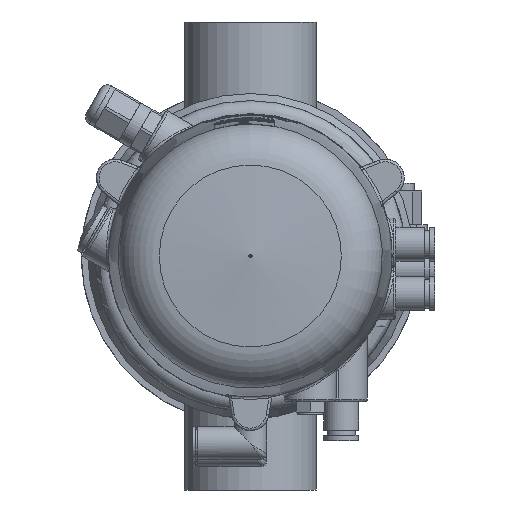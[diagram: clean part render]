
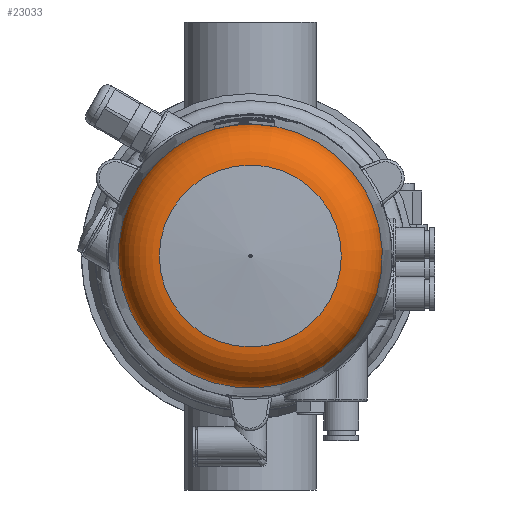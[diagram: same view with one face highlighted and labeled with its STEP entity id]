
A CAD part, front view. The second image highlights one B-rep face of the part: STEP entity #23033.
In plain terms, the highlighted toroidal (fillet/blend) face has major radius 33.812 mm and minor radius 17 mm.
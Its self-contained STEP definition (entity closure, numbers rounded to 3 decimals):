
#1526 = B_SPLINE_CURVE_WITH_KNOTS ( 'NONE', 3,
 ( #46981, #51215, #60906, #26330 ),
 .UNSPECIFIED., .F., .F.,
 ( 4, 4 ),
 ( 0., 0. ),
 .UNSPECIFIED. ) ;
#3689 = CARTESIAN_POINT ( 'NONE',  ( -38.517, 140.463, -33.11 ) ) ;
#5056 = EDGE_CURVE ( 'NONE', #7922, #20824, #15002, .T. ) ;
#6812 = FACE_OUTER_BOUND ( 'NONE', #40935, .T. ) ;
#7282 = ORIENTED_EDGE ( 'NONE', *, *, #55146, .F. ) ;
#7922 = VERTEX_POINT ( 'NONE', #3689 ) ;
#8136 = EDGE_LOOP ( 'NONE', ( #33759 ) ) ;
#10399 = CARTESIAN_POINT ( 'NONE',  ( 0., 140.463, 0. ) ) ;
#12856 = CARTESIAN_POINT ( 'NONE',  ( 0., 140.491, 0. ) ) ;
#13369 = DIRECTION ( 'NONE',  ( 0., -1., 0. ) ) ;
#15002 = CIRCLE ( 'NONE', #41803, 50.792 ) ;
#16562 = FACE_OUTER_BOUND ( 'NONE', #8136, .T. ) ;
#17252 = VERTEX_POINT ( 'NONE', #52912 ) ;
#17824 = CARTESIAN_POINT ( 'NONE',  ( -38.515, 140.491, -33.11 ) ) ;
#20344 = AXIS2_PLACEMENT_3D ( 'NONE', #28271, #13369, #48609 ) ;
#20824 = VERTEX_POINT ( 'NONE', #56054 ) ;
#20880 = VERTEX_POINT ( 'NONE', #35048 ) ;
#21213 = EDGE_CURVE ( 'NONE', #28306, #17252, #44248, .T. ) ;
#23033 = ADVANCED_FACE ( 'NONE', ( #6812, #16562 ), #56510, .T. ) ;
#25911 = DIRECTION ( 'NONE',  ( 0., 0., -1. ) ) ;
#26330 = CARTESIAN_POINT ( 'NONE',  ( -49.218, 140.463, -12.546 ) ) ;
#28202 = B_SPLINE_CURVE_WITH_KNOTS ( 'NONE', 3,
 ( #30128, #56005, #55348, #45012 ),
 .UNSPECIFIED., .F., .F.,
 ( 4, 4 ),
 ( 0., 0. ),
 .UNSPECIFIED. ) ;
#28271 = CARTESIAN_POINT ( 'NONE',  ( 0., 156.588, 0. ) ) ;
#28306 = VERTEX_POINT ( 'NONE', #17824 ) ;
#28637 = AXIS2_PLACEMENT_3D ( 'NONE', #36207, #60478, #25911 ) ;
#30128 = CARTESIAN_POINT ( 'NONE',  ( -38.515, 140.491, -33.11 ) ) ;
#33444 = ORIENTED_EDGE ( 'NONE', *, *, #62379, .T. ) ;
#33543 = DIRECTION ( 'NONE',  ( 0., 0., -1. ) ) ;
#33759 = ORIENTED_EDGE ( 'NONE', *, *, #39252, .T. ) ;
#35048 = CARTESIAN_POINT ( 'NONE',  ( 0., 156.588, -34.998 ) ) ;
#36207 = CARTESIAN_POINT ( 'NONE',  ( 0., 139.629, 0. ) ) ;
#39252 = EDGE_CURVE ( 'NONE', #20880, #20880, #52304, .T. ) ;
#40716 = DIRECTION ( 'NONE',  ( 0., -1., 0. ) ) ;
#40935 = EDGE_LOOP ( 'NONE', ( #7282, #56797, #33444, #55016 ) ) ;
#41803 = AXIS2_PLACEMENT_3D ( 'NONE', #10399, #40716, #55614 ) ;
#42237 = DIRECTION ( 'NONE',  ( 0., 1., 0. ) ) ;
#44248 = CIRCLE ( 'NONE', #59746, 50.791 ) ;
#45012 = CARTESIAN_POINT ( 'NONE',  ( -38.517, 140.463, -33.11 ) ) ;
#46981 = CARTESIAN_POINT ( 'NONE',  ( -49.217, 140.491, -12.546 ) ) ;
#48609 = DIRECTION ( 'NONE',  ( 0., 0., -1. ) ) ;
#51215 = CARTESIAN_POINT ( 'NONE',  ( -49.217, 140.482, -12.546 ) ) ;
#52304 = CIRCLE ( 'NONE', #20344, 34.998 ) ;
#52912 = CARTESIAN_POINT ( 'NONE',  ( -49.217, 140.491, -12.546 ) ) ;
#55016 = ORIENTED_EDGE ( 'NONE', *, *, #5056, .F. ) ;
#55146 = EDGE_CURVE ( 'NONE', #28306, #7922, #28202, .T. ) ;
#55348 = CARTESIAN_POINT ( 'NONE',  ( -38.516, 140.473, -33.11 ) ) ;
#55614 = DIRECTION ( 'NONE',  ( 0., 0., -1. ) ) ;
#56005 = CARTESIAN_POINT ( 'NONE',  ( -38.516, 140.482, -33.11 ) ) ;
#56054 = CARTESIAN_POINT ( 'NONE',  ( -49.218, 140.463, -12.546 ) ) ;
#56510 = TOROIDAL_SURFACE ( 'NONE', #28637, 33.812, 17. ) ;
#56797 = ORIENTED_EDGE ( 'NONE', *, *, #21213, .T. ) ;
#59746 = AXIS2_PLACEMENT_3D ( 'NONE', #12856, #42237, #33543 ) ;
#60478 = DIRECTION ( 'NONE',  ( 0., -1., 0. ) ) ;
#60906 = CARTESIAN_POINT ( 'NONE',  ( -49.218, 140.473, -12.546 ) ) ;
#62379 = EDGE_CURVE ( 'NONE', #17252, #20824, #1526, .T. ) ;
